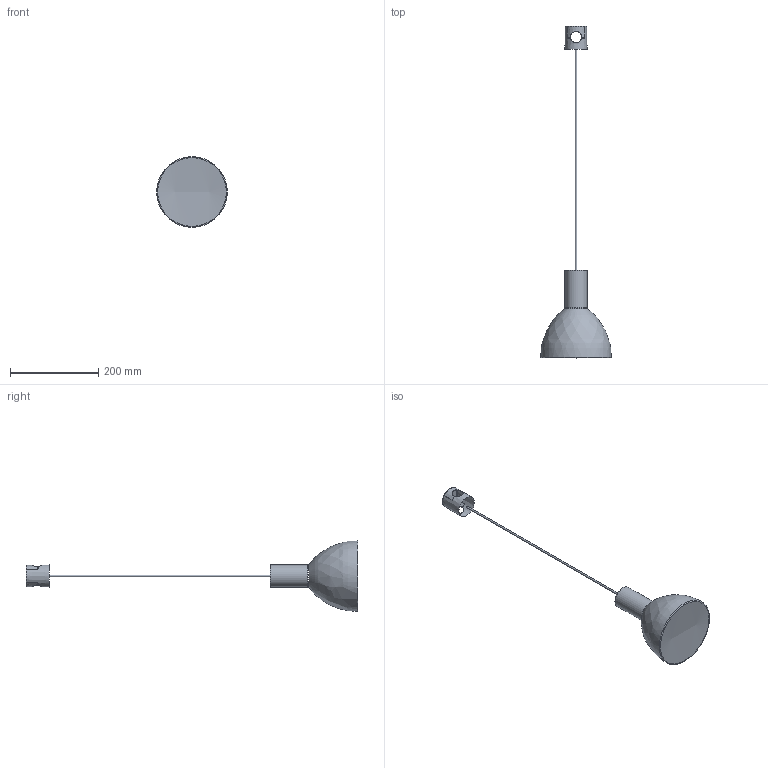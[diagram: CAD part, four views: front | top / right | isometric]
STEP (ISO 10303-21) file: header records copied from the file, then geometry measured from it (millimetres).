
FILE_DESCRIPTION(/* description */ (''),/* implementation_level */ '2;1');
FILE_NAME(/* name */ 'S:\UFFICIO TECNICO 2019\PRODOTTI ROTALIANA\SOUVLAKI\CONFIGURATORE\FILES X CONFIGURATORE\ipt INVENTOR\ASVSH_faretto sospeso a binario con diffusore semisferico.stp',/* time_stamp */ '2024-03-13T10:27:03+01:00',/* author */ ('mtesta'),/* organization */ (''),/* preprocessor_version */ 'ST-DEVELOPER v18.1',/* originating_system */ 'Autodesk Inventor 2021',/* authorisation */ '');
FILE_SCHEMA (('AUTOMOTIVE_DESIGN { 1 0 10303 214 3 1 1 }'));
Length unit declared in the file: millimetre
Products named in the file (1): A2647 CONFIGURATORE
Bounding box: 160 x 751.65 x 160 mm (x, y, z)
Surface area: 99011.2 mm2 (no closed solid volume)
Topology: 0 solids, 5 shells, 19 faces, 128 edges, 117 vertices
Faces by surface type: torus 6, plane 6, cone 3, cylinder 2, bspline 1, sphere 1
Full cylindrical faces by diameter (mm): 4 x1, 50 x1
Entity records: 1632 total; most frequent: CARTESIAN_POINT 671, DIRECTION 181, ORIENTED_EDGE 134, EDGE_CURVE 108, VERTEX_POINT 94, AXIS2_PLACEMENT_3D 83, CIRCLE 56, B_SPLINE_CURVE_WITH_KNOTS 39
